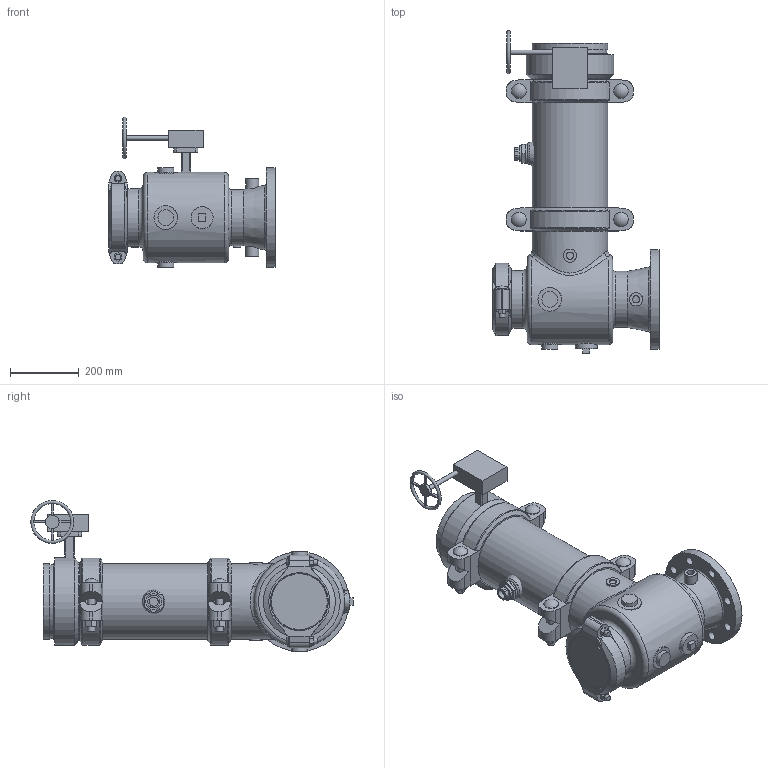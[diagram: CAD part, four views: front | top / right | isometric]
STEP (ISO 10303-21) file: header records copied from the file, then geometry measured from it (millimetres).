
FILE_DESCRIPTION(/* description */ ('VIC SVI PUMP DROP HORZ S/391 (OGSxFLG)','CAx-IF Rec.Pracs.---Representation and Presentation of Product Manufacturing Information (PMI)---4.0---2014-10-13'),/* implementation_level */ '2;1');
FILE_NAME(/* name */ 'C:\Users\kkamble\AppData\Roaming\Autodesk\ApplicationPlugins\Back Up\Victaulic_PN10_Series 391 (OGSxFLG)\Victaulic_PN10_Series 391 (OGSxFLG)_08.0x06.0 (200x150).stp',/* time_stamp */ '2020-11-26T23:45:14+05:00',/* author */ ('kkamble'),/* organization */ ('Victaulic'),/* preprocessor_version */ 'ST-DEVELOPER v17.2',/* originating_system */ 'Autodesk Inventor 2019',/* authorisation */ '');
FILE_SCHEMA (('AP242_MANAGED_MODEL_BASED_3D_ENGINEERING_MIM_LF { 1 0 10303 442 1 1 4 }'));
Length unit declared in the file: inch
Products named in the file (9): 391-08.0x06.0; 731D-08.0x06.0; 731D-08.0x06.0_1; 731D-08.0; 07-06.0; PIPE-08.0; 177N-08.0; 761-08.0; 923-04.0x0.75
Assembly tree (9 placements, depth 3):
  391-08.0x06.0
    731D-08.0x06.0
      731D-08.0x06.0_1
      731D-08.0
      07-06.0
    177N-08.0  x2
    PIPE-08.0
    761-08.0
    923-04.0x0.75
Bounding box: 482.6 x 936.74 x 438.39 mm (x, y, z)
Volume: 17804755.4 mm3; surface area: 2304997.1 mm2
Topology: 8 solids, 11 shells, 511 faces, 1350 edges, 911 vertices
Faces by surface type: plane 294, cylinder 170, cone 19, torus 18, sphere 6, bspline 4
Full cylindrical faces by diameter (mm): 8.636 x4, 12.446 x1, 12.7 x1, 15.875 x4, 20.955 x4, 22.225 x4, 22.86 x1, 24.994 x8, 26.67 x1, 27.381 x2, 38.1 x4, 39.125 x1, 42.85 x4, 45.72 x3, 45.974 x2, 55.118 x1, 55.626 x1, 63.5 x1, 132.588 x1, 136.906 x1, 146.558 x1, 152.4 x1, 155.575 x1, 162.814 x1, 163.703 x1, 163.957 x1, 168.275 x5, 193.802 x1, 202.717 x2, 206.375 x2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
Entity records: 15536 total; most frequent: CARTESIAN_POINT 3996, DIRECTION 2336, ORIENTED_EDGE 2202, EDGE_CURVE 1101, AXIS2_PLACEMENT_3D 899, VERTEX_POINT 747, LINE 538, VECTOR 538
